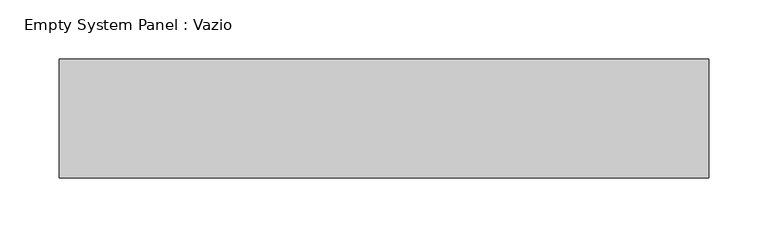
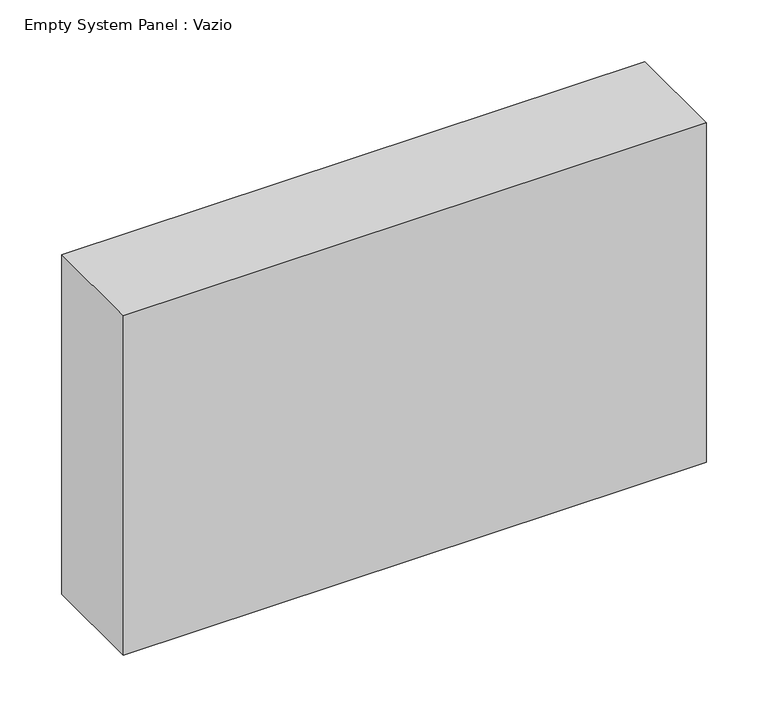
"""IFC4 building model written with IfcOpenShell, lengths in millimetres: plate geometry, Empty System Panel : Vazio."""

import ifcopenshell
import ifcopenshell.guid

model = None  # the IFC model being written
_history = None  # IfcOwnerHistory: only IFC2X3 demands one
_inside = {}  # id of a spatial element -> (the spatial element, [elements in it])
_under = {}  # id of a project, library or spatial element -> (it, [spatial elements below it])
_declared = {}  # id of a project -> (the project, [libraries it declares])
_typed = {}  # id of a type object -> (the type object, [elements of that type])
_made_of = {}  # id of a material, layer set ... -> (it, [elements and type objects made of it])


def new_model(schema):
    """Start an empty IFC model of exactly this schema.

    Asked for "IFC4X3", IfcOpenShell would pick the latest addendum, in which some entities
    have other attributes; the version numbers below select the first issue.
    IFC2X3 requires an IfcOwnerHistory on every rooted entity: one is made here for all.
    """
    global model, _history
    if schema == "IFC4X3":
        model = ifcopenshell.file(schema_version=(4, 3, 0, 0))
    else:
        model = ifcopenshell.file(schema=schema)
    _inside.clear()
    _under.clear()
    _declared.clear()
    _typed.clear()
    _made_of.clear()
    _history = None
    if model.schema == "IFC2X3":
        org = make("IfcOrganization", Name="unknown")
        user = make(
            "IfcPersonAndOrganization",
            ThePerson=make("IfcPerson", FamilyName="unknown"),
            TheOrganization=org,
        )
        app = make(
            "IfcApplication",
            ApplicationDeveloper=org,
            Version="unknown",
            ApplicationFullName="unknown",
            ApplicationIdentifier="unknown",
        )
        _history = make(
            "IfcOwnerHistory",
            OwningUser=user,
            OwningApplication=app,
            ChangeAction="ADDED",
            CreationDate=0,
        )
    return model


def make(cls, **values):
    """One entity of the class cls with the attributes given. An attribute that is None is left unset."""
    return model.create_entity(
        cls, **{name: value for name, value in values.items() if value is not None}
    )


def rooted(cls, **values):
    """An entity with a GlobalId (a new one), such as an element, a storey or a relation."""
    return make(cls, GlobalId=ifcopenshell.guid.new(), OwnerHistory=_history, **values)


def si_unit(unit_type, name, prefix=None):
    """IfcSIUnit, for example si_unit("LENGTHUNIT", "METRE", prefix="MILLI")."""
    return make("IfcSIUnit", UnitType=unit_type, Prefix=prefix, Name=name)


def assignment(units):
    """IfcUnitAssignment: the units of a project."""
    return None if units is None else make("IfcUnitAssignment", Units=units)


def point(xyz):
    """IfcCartesianPoint."""
    return None if xyz is None else make("IfcCartesianPoint", Coordinates=xyz)


def direction(xyz):
    """IfcDirection."""
    return None if xyz is None else make("IfcDirection", DirectionRatios=xyz)


def frame(location, z_axis=None, x_axis=None):
    """IfcAxis2Placement3D, a coordinate frame: its origin and axes. An axis left out is left unset."""
    return make(
        "IfcAxis2Placement3D",
        Location=point(location),
        Axis=direction(z_axis),
        RefDirection=direction(x_axis),
    )


def origin():
    """The frame at (0, 0, 0) with its axes left unset."""
    return frame((0.0, 0.0, 0.0))


def origin_with_axes():
    """The frame at (0, 0, 0) with the z axis (0, 0, 1) and the x axis (1, 0, 0) written out."""
    return frame((0.0, 0.0, 0.0), z_axis=(0.0, 0.0, 1.0), x_axis=(1.0, 0.0, 0.0))


def place(relative_to, where):
    """IfcLocalPlacement: puts the frame where relative to a parent placement (None: the world)."""
    return make(
        "IfcLocalPlacement", PlacementRelTo=relative_to, RelativePlacement=where
    )


def context(
    kind, dimensions, precision=None, world=None, true_north=None, identifier=None
):
    """IfcGeometricRepresentationContext, for example the 3D "Model" context."""
    return make(
        "IfcGeometricRepresentationContext",
        ContextIdentifier=identifier,
        ContextType=kind,
        CoordinateSpaceDimension=dimensions,
        Precision=precision,
        WorldCoordinateSystem=world,
        TrueNorth=true_north,
    )


def project(units=None, contexts=None):
    """IfcProject with its units and contexts."""
    return rooted(
        "IfcProject",
        Name="project",
        RepresentationContexts=contexts,
        UnitsInContext=assignment(units),
    )


def spatial(cls, under=None, at=None, **own):
    """A site, building, storey or space (cls), placed at a placement, below another one or the project."""
    s = rooted(cls, ObjectPlacement=at, **own)
    if under is not None:
        _under.setdefault(under.id(), (under, []))[1].append(s)
    return s


def polyline(points):
    """IfcPolyline through the points."""
    return make("IfcPolyline", Points=[point(p) for p in points])


def outline(outer, holes=None, kind="AREA"):
    """IfcArbitraryClosedProfileDef: a profile drawn as a closed curve; with holes, ...WithVoids."""
    if holes is None:
        return make("IfcArbitraryClosedProfileDef", ProfileType=kind, OuterCurve=outer)
    return make(
        "IfcArbitraryProfileDefWithVoids",
        ProfileType=kind,
        OuterCurve=outer,
        InnerCurves=holes,
    )


def extrude(swept, where, along, depth):
    """IfcExtrudedAreaSolid: the profile swept, set in the frame where, extruded along a direction by depth."""
    return make(
        "IfcExtrudedAreaSolid",
        SweptArea=swept,
        Position=where,
        ExtrudedDirection=direction(along),
        Depth=depth,
    )


def shape(context_of_items, identifier, shape_type, items):
    """IfcShapeRepresentation: the items that make up one representation, for example the "Body"."""
    return make(
        "IfcShapeRepresentation",
        ContextOfItems=context_of_items,
        RepresentationIdentifier=identifier,
        RepresentationType=shape_type,
        Items=items,
    )


def source(mapping_origin, context_of_items, identifier, shape_type, items):
    """IfcRepresentationMap: a shape defined once, which mapped items show again and again."""
    return make(
        "IfcRepresentationMap",
        MappingOrigin=mapping_origin,
        MappedRepresentation=shape(context_of_items, identifier, shape_type, items),
    )


def transform(
    local_origin,
    x_axis=None,
    y_axis=None,
    z_axis=None,
    scale=None,
    scale2=None,
    scale3=None,
    uniform=True,
):
    """IfcCartesianTransformationOperator3D, or its non-uniform kind. x_axis, y_axis, z_axis: its Axis1, 2, 3."""
    if uniform:
        return make(
            "IfcCartesianTransformationOperator3D",
            Axis1=direction(x_axis),
            Axis2=direction(y_axis),
            LocalOrigin=point(local_origin),
            Scale=scale,
            Axis3=direction(z_axis),
        )
    return make(
        "IfcCartesianTransformationOperator3DnonUniform",
        Axis1=direction(x_axis),
        Axis2=direction(y_axis),
        LocalOrigin=point(local_origin),
        Scale=scale,
        Axis3=direction(z_axis),
        Scale2=scale2,
        Scale3=scale3,
    )


def mapped(mapping_source, mapping_target):
    """IfcMappedItem: shows the shape of a source again, moved by a transform."""
    return make(
        "IfcMappedItem", MappingSource=mapping_source, MappingTarget=mapping_target
    )


def made_of(thing, what):
    """Note that an element or type object is made of a material, layer set ...; save() writes the relation."""
    if what is not None:
        _made_of.setdefault(what.id(), (what, []))[1].append(thing)
    return thing


def element(
    cls,
    number,
    at=None,
    inside=None,
    cuts=None,
    type_object=None,
    material=None,
    context=None,
    identifier="Body",
    shape_type=None,
    held_by="IfcProductDefinitionShape",
    body=None,
    shapes=None,
    **own,
):
    """One element of the class cls, such as IfcWall. Its Tag is "e" and its number.

    at: its placement. inside: the storey or other place that contains it. cuts: it is an
    opening in that element (IfcRelVoidsElement). A single representation is given by context,
    identifier, shape_type and body (its items); several are given by shapes. held_by: the class
    of the entity that holds the representations. save() writes the other relations.
    """
    e = rooted(cls, Tag="e%d" % number, ObjectPlacement=at, **own)
    if body is not None:
        shapes = [shape(context, identifier, shape_type, body)]
    if shapes is not None:
        e.Representation = make(held_by, Representations=shapes)
    if inside is not None:
        _inside.setdefault(inside.id(), (inside, []))[1].append(e)
    if cuts is not None:
        rooted(
            "IfcRelVoidsElement", RelatingBuildingElement=cuts, RelatedOpeningElement=e
        )
    if type_object is not None:
        _typed.setdefault(type_object.id(), (type_object, []))[1].append(e)
    return made_of(e, material)


def aggregate(whole, parts):
    """IfcRelAggregates: a whole, such as a stair, and the parts it consists of."""
    return rooted("IfcRelAggregates", RelatingObject=whole, RelatedObjects=parts)


def save(model, path):
    """Write the relations noted so far, then the file.

    IfcRelAggregates (storeys below a building ...), IfcRelContainedInSpatialStructure (elements
    in a storey), IfcRelDefinesByType, IfcRelAssociatesMaterial and IfcRelDeclares: one each for
    every whole, place, type object, material and project.
    """
    for whole, parts in _under.values():
        aggregate(whole, parts)
    for where, things in _inside.values():
        rooted(
            "IfcRelContainedInSpatialStructure",
            RelatedElements=things,
            RelatingStructure=where,
        )
    for kind, things in _typed.values():
        rooted("IfcRelDefinesByType", RelatedObjects=things, RelatingType=kind)
    for what, things in _made_of.values():
        rooted("IfcRelAssociatesMaterial", RelatedObjects=things, RelatingMaterial=what)
    for by, libraries in _declared.values():
        rooted("IfcRelDeclares", RelatingContext=by, RelatedDefinitions=libraries)
    model.write(path)


def empty_system_panel_vazio_178faf58(model_context):
    return source(origin(), model_context, "Body", "SweptSolid", [
        extrude(outline(polyline([(273.5273784, 50.0), (-273.5273784, 50.0), (-273.5273784, 150.0), (273.5273784, 150.0), (273.5273784, 50.0)])), origin_with_axes(), (0.0, 0.0, 1.0), 336.4764043),
    ])


if __name__ == "__main__":
    model = new_model("IFC4")
    model_context = context("Model", 3, world=origin())
    ifc_project = project(units=[si_unit("LENGTHUNIT", "METRE", prefix="MILLI")], contexts=[model_context])
    site = spatial("IfcSite", under=ifc_project)
    building = spatial("IfcBuilding", under=site)
    placement = place(None, origin())
    empty_system_panel_vazio_shape = empty_system_panel_vazio_178faf58(model_context)
    element("IfcPlate", 1, ObjectType="Empty System Panel : Vazio", at=placement, inside=building, context=model_context, shape_type="MappedRepresentation", body=[
        mapped(empty_system_panel_vazio_shape, transform((0.0, 0.0, 0.0), x_axis=(1.0, 0.0, 0.0), y_axis=(0.0, 1.0, 0.0), z_axis=(0.0, 0.0, 1.0))),
    ])
    save(model, "model.ifc")
